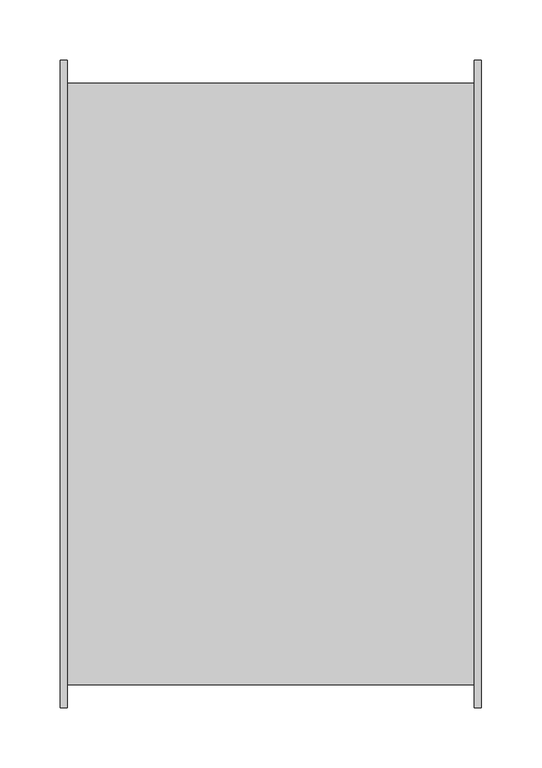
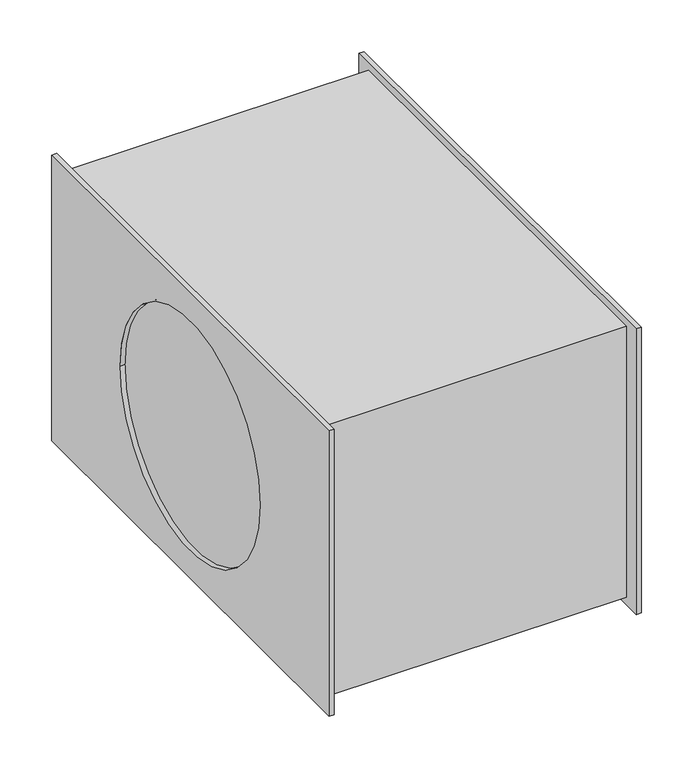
"""IFC4 building model written with IfcOpenShell, lengths in millimetres: unitary equipment geometry, VE-Wentylator-ParaForma-Harmann-JETTEC_REC_EC-Nawiewny : 050/30/2300EC."""

from ifc_helpers import new_model, si_unit, frame, origin, place, context, project, spatial, polyline, circle_curve, source, transform, mapped, element, save
from ifc_brep_helpers import plane_surface, revolved_surface, advanced_brep


def unitary_equipment_6f25ec48(model_context):
    return source(origin(), model_context, "Body", "AdvancedBrep", [
        advanced_brep(
        [(169.2, -269.0, -169.0), (169.2, -269.0, 169.0), (169.2, 269.0, 169.0), (169.2, 269.0, -169.0), (169.2, -249.8, 160.6), (169.2, -249.8, -160.0), (169.2, 249.8, -160.0), (169.2, 249.8, 160.6), (175.0, -269.0, -169.0), (175.0, 269.0, -169.0), (175.0, 269.0, 169.0), (175.0, -269.0, 169.0), (175.0, -136.0, 0.0), (175.0, 136.0, 0.0), (169.2, 136.0, 0.0), (169.2, -136.0, 0.0), (-169.2, -136.0, 0.0), (-169.2, 136.0, 0.0), (-169.2, -249.8, -160.0), (-169.2, -249.8, 160.6), (-169.2, 249.8, 160.6), (-169.2, 249.8, -160.0), (-175.0, -269.0, -169.0), (-175.0, -269.0, 169.0), (-175.0, 269.0, 169.0), (-175.0, 269.0, -169.0), (-175.0, 136.0, 0.0), (-175.0, -136.0, 0.0), (-169.2, -269.0, -169.0), (-169.2, 269.0, -169.0), (-169.2, 269.0, 169.0), (-169.2, -269.0, 169.0)],
        [
            (0, 1),
            (1, 2),
            (2, 3),
            (3, 0),
            (4, 5),
            (5, 6),
            (6, 7),
            (7, 4),
            (8, 9),
            (9, 10),
            (10, 11),
            (11, 8),
            (12, 13, circle_curve(frame((175.0, 0.0, 0.0), z_axis=(-1.0, 0.0, 0.0), x_axis=(0.0, 1.0, 0.0)), 136.0)),
            (13, 12, circle_curve(frame((175.0, 0.0, 0.0), z_axis=(-1.0, 0.0, 0.0), x_axis=(0.0, 1.0, 0.0)), 136.0)),
            (0, 8),
            (11, 1),
            (10, 2),
            (9, 3),
            (14, 13),
            (12, 15),
            (15, 14, circle_curve(frame((169.2, 0.0, 0.0), z_axis=(-1.0, 0.0, 0.0), x_axis=(0.0, 1.0, 0.0)), 136.0)),
            (14, 15, circle_curve(frame((169.2, 0.0, 0.0), z_axis=(-1.0, 0.0, 0.0), x_axis=(0.0, 1.0, 0.0)), 136.0)),
            (16, 17, circle_curve(frame((-169.2, 0.0, 0.0), z_axis=(-1.0, 0.0, 0.0), x_axis=(0.0, 1.0, 0.0)), 136.0)),
            (17, 16, circle_curve(frame((-169.2, 0.0, 0.0), z_axis=(-1.0, 0.0, 0.0), x_axis=(0.0, 1.0, 0.0)), 136.0)),
            (18, 5),
            (4, 19),
            (19, 18),
            (7, 20),
            (20, 19),
            (6, 21),
            (21, 20),
            (18, 21),
            (22, 23),
            (23, 24),
            (24, 25),
            (25, 22),
            (26, 27, circle_curve(frame((-175.0, 0.0, 0.0), z_axis=(1.0, 0.0, 0.0), x_axis=(0.0, 1.0, 0.0)), 136.0)),
            (27, 26, circle_curve(frame((-175.0, 0.0, 0.0), z_axis=(1.0, 0.0, 0.0), x_axis=(0.0, 1.0, 0.0)), 136.0)),
            (28, 29),
            (29, 30),
            (30, 31),
            (31, 28),
            (22, 28),
            (31, 23),
            (30, 24),
            (29, 25),
            (26, 17),
            (16, 27),
        ],
        [
            plane_surface(frame((169.2, 0.0, 0.0), z_axis=(-1.0, 0.0, 0.0), x_axis=(0.0, 0.0, 1.0))),
            plane_surface(frame((175.0, 0.0, 0.0), z_axis=(1.0, 0.0, 0.0), x_axis=(0.0, 0.0, 1.0))),
            plane_surface(frame((169.2, -269.0, -169.0), z_axis=(0.0, -1.0, 0.0), x_axis=(1.0, 0.0, 0.0))),
            plane_surface(frame((169.2, -269.0, 169.0), z_axis=(0.0, 0.0, 1.0), x_axis=(1.0, 0.0, 0.0))),
            plane_surface(frame((169.2, 269.0, 169.0), z_axis=(0.0, 1.0, 0.0), x_axis=(1.0, 0.0, 0.0))),
            plane_surface(frame((169.2, 269.0, -169.0), z_axis=(0.0, 0.0, -1.0), x_axis=(1.0, 0.0, 0.0))),
            revolved_surface(polyline([(169.2, 136.0, 0.0), (175.0, 136.0, 0.0)]), (169.2, 0.0, 0.0), (-1.0, 0.0, 0.0)),
            plane_surface(frame((-169.2, 0.0, 0.0), z_axis=(-1.0, 0.0, 0.0), x_axis=(0.0, 0.0, 1.0))),
            plane_surface(frame((169.2, 0.0, 0.0), z_axis=(1.0, 0.0, 0.0), x_axis=(0.0, 0.0, 1.0))),
            plane_surface(frame((-169.2, -249.8, -160.0), z_axis=(0.0, -1.0, 0.0), x_axis=(1.0, 0.0, 0.0))),
            plane_surface(frame((-169.2, -249.8, 160.6), z_axis=(0.0, 0.0, 1.0), x_axis=(1.0, 0.0, 0.0))),
            plane_surface(frame((-169.2, 249.8, 160.6), z_axis=(0.0, 1.0, 0.0), x_axis=(1.0, 0.0, 0.0))),
            plane_surface(frame((-169.2, 249.8, -160.0), z_axis=(0.0, 0.0, -1.0), x_axis=(1.0, 0.0, 0.0))),
            plane_surface(frame((-175.0, 0.0, 0.0), z_axis=(-1.0, 0.0, 0.0), x_axis=(0.0, 0.0, 1.0))),
            plane_surface(frame((-169.2, 0.0, 0.0), z_axis=(1.0, 0.0, 0.0), x_axis=(0.0, 0.0, 1.0))),
            plane_surface(frame((-175.0, -269.0, -169.0), z_axis=(0.0, -1.0, 0.0), x_axis=(1.0, 0.0, 0.0))),
            plane_surface(frame((-175.0, -269.0, 169.0), z_axis=(0.0, 0.0, 1.0), x_axis=(1.0, 0.0, 0.0))),
            plane_surface(frame((-175.0, 269.0, 169.0), z_axis=(0.0, 1.0, 0.0), x_axis=(1.0, 0.0, 0.0))),
            plane_surface(frame((-175.0, 269.0, -169.0), z_axis=(0.0, 0.0, -1.0), x_axis=(1.0, 0.0, 0.0))),
            revolved_surface(polyline([(-175.0, 136.0, 0.0), (-169.2, 136.0, 0.0)]), (-175.0, 0.0, 0.0), (-1.0, 0.0, 0.0)),
        ],
        [
            (0, [[1, 2, 3, 4], [5, 6, 7, 8]]),
            (1, [[9, 10, 11, 12], [13, 14]]),
            (2, [[-1, 15, -12, 16]]),
            (3, [[-2, -16, -11, 17]]),
            (4, [[-3, -17, -10, 18]]),
            (5, [[-4, -18, -9, -15]]),
            (6, [[19, -13, 20, 21]]),
            (6, [[-19, 22, -20, -14]]),
            (7, [[23, 24]]),
            (8, [[-21, -22]]),
            (9, [[25, -5, 26, 27]]),
            (10, [[-26, -8, 28, 29]]),
            (11, [[-28, -7, 30, 31]]),
            (12, [[-25, 32, -30, -6]]),
            (13, [[33, 34, 35, 36], [37, 38]]),
            (14, [[39, 40, 41, 42], [-27, -29, -31, -32]]),
            (15, [[-33, 43, -42, 44]]),
            (16, [[-34, -44, -41, 45]]),
            (17, [[-35, -45, -40, 46]]),
            (18, [[-36, -46, -39, -43]]),
            (19, [[47, -23, 48, -37]]),
            (19, [[-47, -38, -48, -24]]),
        ],
    ),
    ])


if __name__ == "__main__":
    model = new_model("IFC4")
    model_context = context("Model", 3, world=origin())
    ifc_project = project(units=[si_unit("LENGTHUNIT", "METRE", prefix="MILLI")], contexts=[model_context])
    site = spatial("IfcSite", under=ifc_project)
    building = spatial("IfcBuilding", under=site)
    placement = place(None, origin())
    unitary_equipment_shape = unitary_equipment_6f25ec48(model_context)
    element("IfcUnitaryEquipment", 1, ObjectType="VE-Wentylator-ParaForma-Harmann-JETTEC_REC_EC-Nawiewny : 050/30/2300EC", at=placement, inside=building, context=model_context, shape_type="MappedRepresentation", body=[
        mapped(unitary_equipment_shape, transform((0.0, 0.0, 0.0), x_axis=(1.0, 0.0, 0.0), y_axis=(0.0, 1.0, 0.0), z_axis=(0.0, 0.0, 1.0))),
    ])
    save(model, "model.ifc")
